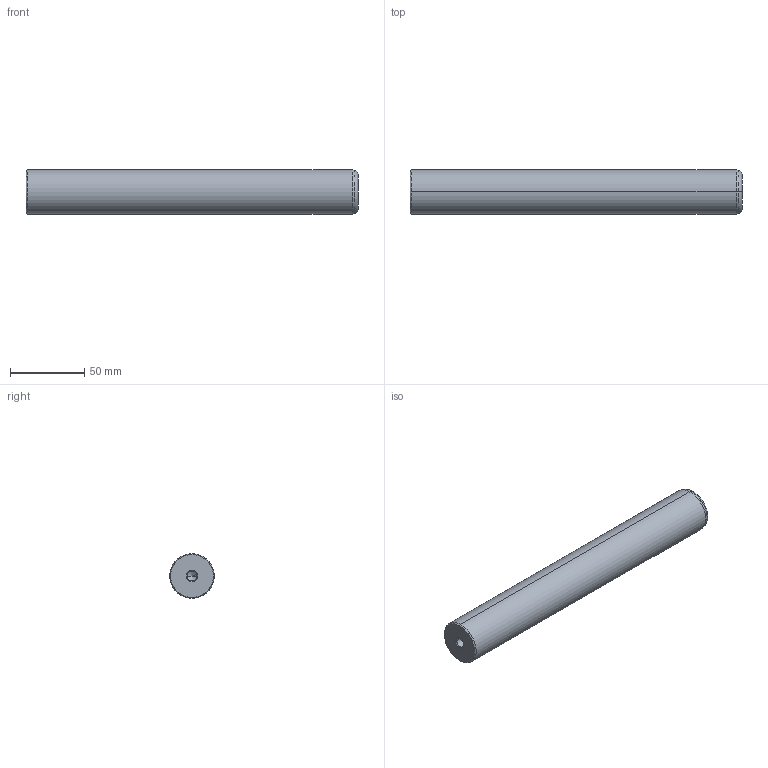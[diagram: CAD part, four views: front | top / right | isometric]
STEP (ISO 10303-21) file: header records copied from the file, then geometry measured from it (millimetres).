
FILE_DESCRIPTION(('CATIA V5 STEP Exchange'),'2;1');
FILE_NAME('C:\Users\Utente\Desktop\IO LAVORO\3D X SITO CF\X SITO\720\720-30x224.stp','2021-01-01T12:31:16+00:00',('none'),('none'),'CATIA Version 5 Release 20 GA (IN-10)','CATIA V5 STEP AP203','none');
FILE_SCHEMA(('CONFIG_CONTROL_DESIGN'));
Length unit declared in the file: millimetre
Products named in the file (1): 720-30x224
Bounding box: 224 x 30 x 30 mm (x, y, z)
Volume: 156305.4 mm3; surface area: 23322.2 mm2
Topology: 1 solids, 1 shells, 22 faces, 56 edges, 34 vertices
Faces by surface type: cone 12, cylinder 6, plane 2, torus 2
Entity records: 755 total; most frequent: CARTESIAN_POINT 216, ORIENTED_EDGE 104, DIRECTION 89, EDGE_CURVE 52, AXIS2_PLACEMENT_3D 50, VERTEX_POINT 34, CIRCLE 27, EDGE_LOOP 24
